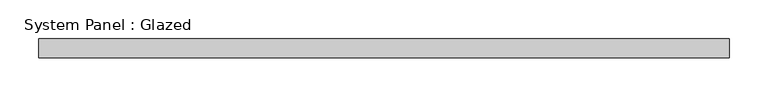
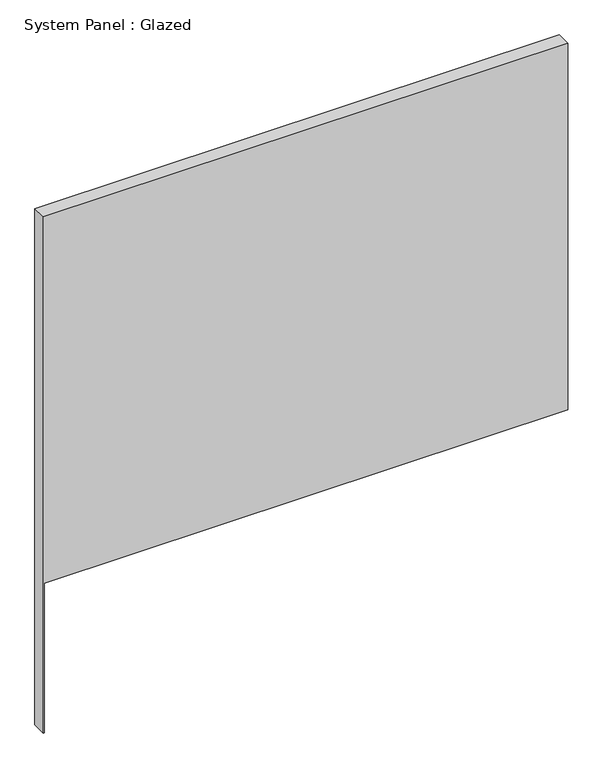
"""IFC4 building model written with IfcOpenShell, lengths in millimetres: plate geometry, System Panel : Glazed."""

from ifc_helpers import new_model, si_unit, frame, origin, place, context, project, spatial, polyline, outline, extrude, source, transform, mapped, element, save


def system_panel_glazed_8be5ad0f(model_context):
    return source(origin(), model_context, "Body", "SweptSolid", [
        extrude(outline(polyline([(0.0, -447.5), (0.0, -446.2809414), (270.0, -446.2809414), (270.0, 447.5), (931.25, 447.5), (931.25, -447.5), (0.0, -447.5)])), frame((0.0, -72.5, 0.0), z_axis=(0.0, 1.0, 0.0), x_axis=(0.0, 0.0, 1.0)), (0.0, 0.0, 1.0), 25.0),
    ])


if __name__ == "__main__":
    model = new_model("IFC4")
    model_context = context("Model", 3, world=origin())
    ifc_project = project(units=[si_unit("LENGTHUNIT", "METRE", prefix="MILLI")], contexts=[model_context])
    site = spatial("IfcSite", under=ifc_project)
    building = spatial("IfcBuilding", under=site)
    placement = place(None, origin())
    system_panel_glazed_shape = system_panel_glazed_8be5ad0f(model_context)
    element("IfcPlate", 1, ObjectType="System Panel : Glazed", at=placement, inside=building, context=model_context, shape_type="MappedRepresentation", body=[
        mapped(system_panel_glazed_shape, transform((0.0, 0.0, 0.0), x_axis=(1.0, 0.0, 0.0), y_axis=(0.0, 1.0, 0.0), z_axis=(0.0, 0.0, 1.0))),
    ])
    save(model, "model.ifc")
